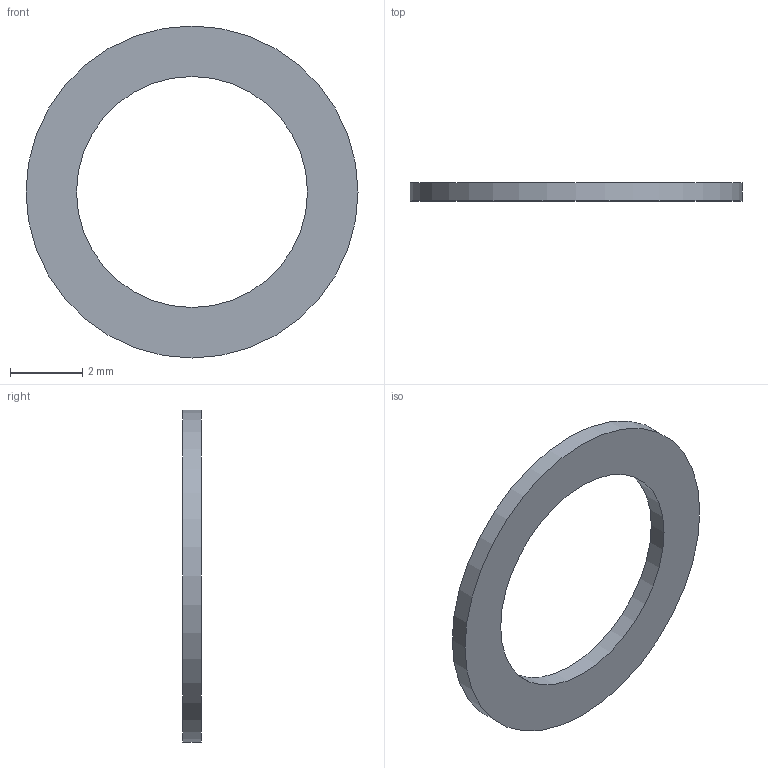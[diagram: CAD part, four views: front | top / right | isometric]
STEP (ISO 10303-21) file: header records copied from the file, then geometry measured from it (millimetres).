
FILE_DESCRIPTION(('Open CASCADE Model'),'2;1');
FILE_NAME('Open CASCADE Shape Model','2026-10-01T12:35:22',('Author'),( 'Open CASCADE'),'Open CASCADE STEP processor 7.8','Open CASCADE 7.8' ,'Unknown');
FILE_SCHEMA(('AUTOMOTIVE_DESIGN { 1 0 10303 214 1 1 1 1 }'));
Length unit declared in the file: millimetre
Products named in the file (2): H95_Toggle_washer_provisional; H95_Toggle_washer_provisional_solid
Assembly tree (1 placements, depth 2):
  H95_Toggle_washer_provisional
    H95_Toggle_washer_provisional_solid
Bounding box: 9.2 x 0.5 x 9.2 mm (x, y, z)
Volume: 17.2 mm3; surface area: 93.1 mm2
Topology: 1 solids, 1 shells, 4 faces, 6 edges, 4 vertices
Faces by surface type: cylinder 2, plane 2
Full cylindrical faces by diameter (mm): 6.4 x1, 9.2 x1
Entity records: 213 total; most frequent: DIRECTION 34, CARTESIAN_POINT 28, ORIENTED_EDGE 12, PCURVE 12, DEFINITIONAL_REPRESENTATION 12, AXIS2_PLACEMENT_3D 10, LINE 10, VECTOR 10
